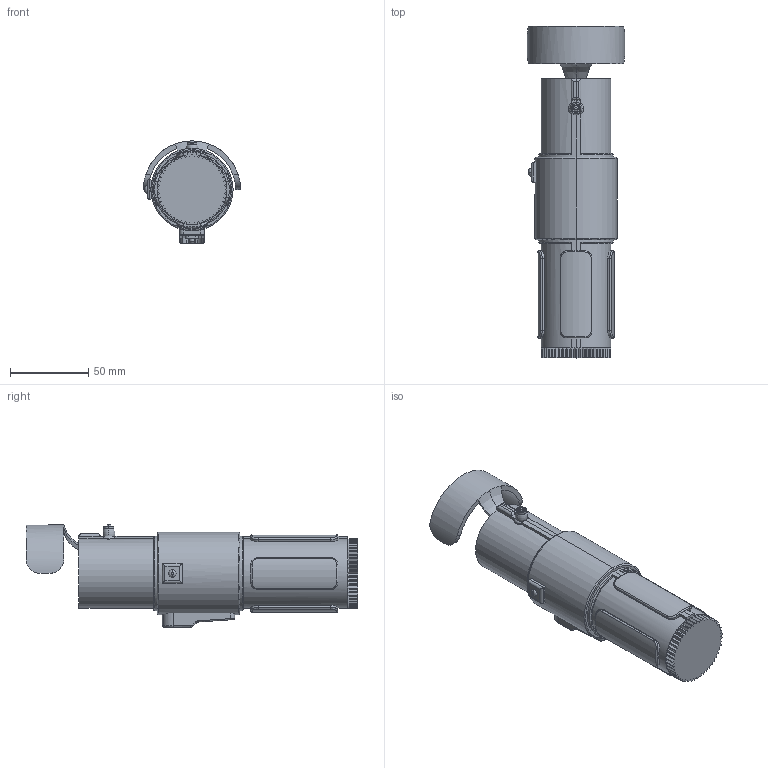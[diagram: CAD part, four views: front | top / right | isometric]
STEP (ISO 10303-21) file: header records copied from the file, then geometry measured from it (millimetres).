
FILE_DESCRIPTION (( 'STEP AP214' ), '1' );
FILE_NAME ('Master Yoda (Lightsaber) (Cue Stick).STEP', '2017-01-19T16:58:19', ( '' ), ( '' ), 'SwSTEP 2.0', 'SolidWorks 2016', '' );
FILE_SCHEMA (( 'AUTOMOTIVE_DESIGN' ));
Length unit declared in the file: inch
Products named in the file (1): Master Yoda (Lightsaber) (Cue Stick)
Bounding box: 61.91 x 211.46 x 65.09 mm (x, y, z)
Volume: 328731.9 mm3; surface area: 40679.1 mm2
Topology: 1 solids, 2 shells, 388 faces, 1040 edges, 666 vertices
Faces by surface type: plane 220, cylinder 97, torus 37, bspline 32, sphere 2
Entity records: 16855 total; most frequent: CARTESIAN_POINT 4938, ORIENTED_EDGE 2072, DIRECTION 1945, EDGE_CURVE 1036, AXIS2_PLACEMENT_3D 679, VERTEX_POINT 664, LINE 587, VECTOR 587
